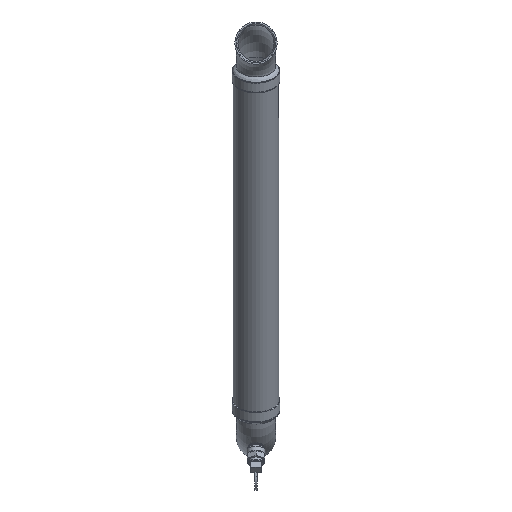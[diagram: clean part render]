
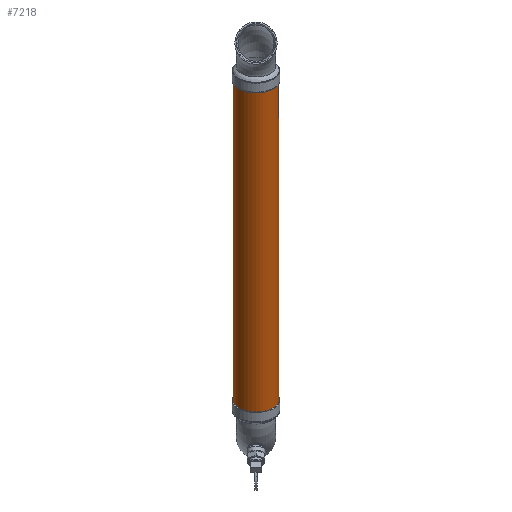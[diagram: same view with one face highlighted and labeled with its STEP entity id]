
A CAD part, front view. The second image highlights one B-rep face of the part: STEP entity #7218.
In plain terms, the highlighted cylindrical face has radius 31.394 mm (diameter 62.789 mm), a full revolution.
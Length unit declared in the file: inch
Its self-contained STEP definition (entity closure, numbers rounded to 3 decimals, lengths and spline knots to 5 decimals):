
#7191=CARTESIAN_POINT('',(0.0,0.0,0.0));
#7192=DIRECTION('',(0.0,0.0,1.0));
#7193=DIRECTION('',(-1.0,0.0,0.0));
#7194=AXIS2_PLACEMENT_3D('',#7191,#7192,#7193);
#7195=CYLINDRICAL_SURFACE('',#7194,1.236);
#7196=CARTESIAN_POINT('',(1.236,0.,22.));
#7197=VERTEX_POINT('',#7196);
#7198=CARTESIAN_POINT('',(0.0,0.0,22.));
#7199=DIRECTION('',(0.0,0.0,-1.0));
#7200=DIRECTION('',(-1.0,0.0,0.0));
#7201=AXIS2_PLACEMENT_3D('',#7198,#7199,#7200);
#7202=CIRCLE('',#7201,1.236);
#7203=EDGE_CURVE('',#7197,#7197,#7202,.T.);
#7204=ORIENTED_EDGE('',*,*,#7203,.T.);
#7205=EDGE_LOOP('',(#7204));
#7206=FACE_OUTER_BOUND('',#7205,.T.);
#7207=CARTESIAN_POINT('',(1.236,0.,0.0));
#7208=VERTEX_POINT('',#7207);
#7209=CARTESIAN_POINT('',(0.0,0.0,0.0));
#7210=DIRECTION('',(0.0,0.0,-1.0));
#7211=DIRECTION('',(-1.0,0.0,0.0));
#7212=AXIS2_PLACEMENT_3D('',#7209,#7210,#7211);
#7213=CIRCLE('',#7212,1.236);
#7214=EDGE_CURVE('',#7208,#7208,#7213,.T.);
#7215=ORIENTED_EDGE('',*,*,#7214,.F.);
#7216=EDGE_LOOP('',(#7215));
#7217=FACE_BOUND('',#7216,.T.);
#7218=ADVANCED_FACE('',(#7206,#7217),#7195,.T.);
